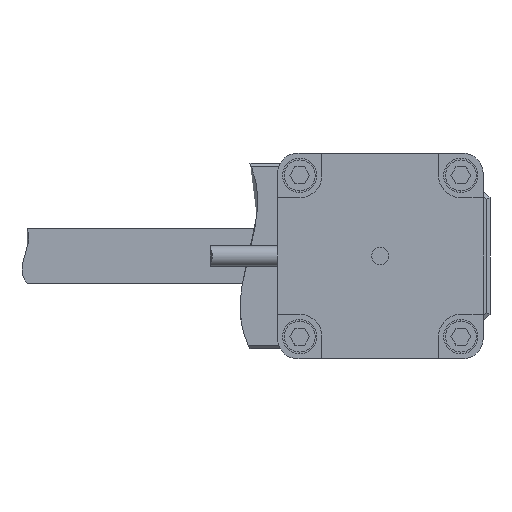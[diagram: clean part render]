
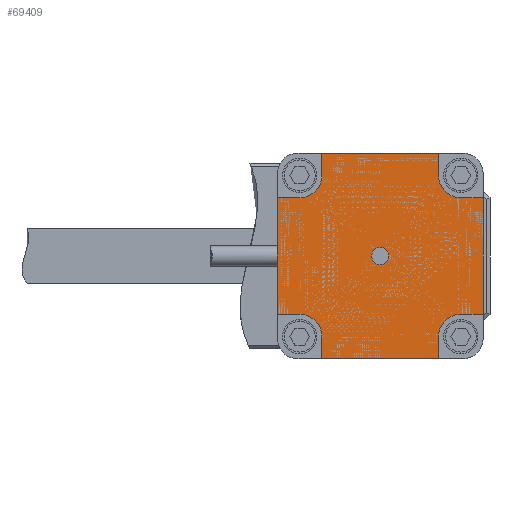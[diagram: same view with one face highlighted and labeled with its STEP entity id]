
A CAD part, front view. The second image highlights one B-rep face of the part: STEP entity #69409.
In plain terms, the highlighted planar face has unit normal (0, -1, 0) as drawn and (0, 1, 0) by its records, which use the part's own axes.
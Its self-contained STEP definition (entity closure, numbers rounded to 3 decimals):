
#68197=DIRECTION('',(1.,0.,0.));
#68198=VECTOR('',#68197,6.5);
#68199=CARTESIAN_POINT('',(-30.,10.,-17.));
#68200=LINE('',#68199,#68198);
#68201=CARTESIAN_POINT('',(-23.5,10.,-23.5));
#68202=DIRECTION('',(0.,1.,0.));
#68203=DIRECTION('',(0.,0.,1.));
#68204=AXIS2_PLACEMENT_3D('',#68201,#68202,#68203);
#68206=DIRECTION('',(0.,0.,1.));
#68207=VECTOR('',#68206,6.5);
#68208=CARTESIAN_POINT('',(-17.,10.,-30.));
#68209=LINE('',#68208,#68207);
#68210=DIRECTION('',(-1.,0.,0.));
#68211=VECTOR('',#68210,34.);
#68212=CARTESIAN_POINT('',(17.,10.,-30.));
#68213=LINE('',#68212,#68211);
#68214=DIRECTION('',(0.,0.,1.));
#68215=VECTOR('',#68214,6.5);
#68216=CARTESIAN_POINT('',(17.,10.,-30.));
#68217=LINE('',#68216,#68215);
#68218=CARTESIAN_POINT('',(23.5,10.,-23.5));
#68219=DIRECTION('',(0.,1.,0.));
#68220=DIRECTION('',(-1.,0.,0.));
#68221=AXIS2_PLACEMENT_3D('',#68218,#68219,#68220);
#68223=DIRECTION('',(-1.,0.,0.));
#68224=VECTOR('',#68223,6.5);
#68225=CARTESIAN_POINT('',(30.,10.,-17.));
#68226=LINE('',#68225,#68224);
#68227=DIRECTION('',(0.,0.,-1.));
#68228=VECTOR('',#68227,34.);
#68229=CARTESIAN_POINT('',(30.,10.,17.));
#68230=LINE('',#68229,#68228);
#68231=DIRECTION('',(-1.,0.,0.));
#68232=VECTOR('',#68231,6.5);
#68233=CARTESIAN_POINT('',(30.,10.,17.));
#68234=LINE('',#68233,#68232);
#68235=CARTESIAN_POINT('',(23.5,10.,23.5));
#68236=DIRECTION('',(0.,1.,0.));
#68237=DIRECTION('',(0.,0.,-1.));
#68238=AXIS2_PLACEMENT_3D('',#68235,#68236,#68237);
#68240=DIRECTION('',(0.,0.,-1.));
#68241=VECTOR('',#68240,6.5);
#68242=CARTESIAN_POINT('',(17.,10.,30.));
#68243=LINE('',#68242,#68241);
#68244=DIRECTION('',(1.,0.,0.));
#68245=VECTOR('',#68244,34.);
#68246=CARTESIAN_POINT('',(-17.,10.,30.));
#68247=LINE('',#68246,#68245);
#68248=DIRECTION('',(0.,0.,-1.));
#68249=VECTOR('',#68248,6.5);
#68250=CARTESIAN_POINT('',(-17.,10.,30.));
#68251=LINE('',#68250,#68249);
#68252=CARTESIAN_POINT('',(-23.5,10.,23.5));
#68253=DIRECTION('',(0.,1.,0.));
#68254=DIRECTION('',(1.,0.,0.));
#68255=AXIS2_PLACEMENT_3D('',#68252,#68253,#68254);
#68257=DIRECTION('',(1.,0.,0.));
#68258=VECTOR('',#68257,6.5);
#68259=CARTESIAN_POINT('',(-30.,10.,17.));
#68260=LINE('',#68259,#68258);
#68261=DIRECTION('',(0.,0.,1.));
#68262=VECTOR('',#68261,34.);
#68263=CARTESIAN_POINT('',(-30.,10.,-17.));
#68264=LINE('',#68263,#68262);
#68265=CARTESIAN_POINT('',(0.,10.,0.));
#68266=DIRECTION('',(0.,1.,0.));
#68267=DIRECTION('',(1.,0.,0.));
#68268=AXIS2_PLACEMENT_3D('',#68265,#68266,#68267);
#68270=CARTESIAN_POINT('',(0.,10.,0.));
#68271=DIRECTION('',(0.,1.,0.));
#68272=DIRECTION('',(-1.,0.,0.));
#68273=AXIS2_PLACEMENT_3D('',#68270,#68271,#68272);
#68879=CARTESIAN_POINT('',(17.,10.,-30.));
#68880=CARTESIAN_POINT('',(17.,10.,-23.5));
#68881=VERTEX_POINT('',#68879);
#68882=VERTEX_POINT('',#68880);
#68883=CARTESIAN_POINT('',(23.5,10.,-17.));
#68884=VERTEX_POINT('',#68883);
#68885=CARTESIAN_POINT('',(30.,10.,-17.));
#68886=VERTEX_POINT('',#68885);
#68899=CARTESIAN_POINT('',(30.,10.,17.));
#68900=CARTESIAN_POINT('',(23.5,10.,17.));
#68901=VERTEX_POINT('',#68899);
#68902=VERTEX_POINT('',#68900);
#68903=CARTESIAN_POINT('',(17.,10.,23.5));
#68904=VERTEX_POINT('',#68903);
#68905=CARTESIAN_POINT('',(17.,10.,30.));
#68906=VERTEX_POINT('',#68905);
#68919=CARTESIAN_POINT('',(-17.,10.,30.));
#68920=CARTESIAN_POINT('',(-17.,10.,23.5));
#68921=VERTEX_POINT('',#68919);
#68922=VERTEX_POINT('',#68920);
#68923=CARTESIAN_POINT('',(-23.5,10.,17.));
#68924=VERTEX_POINT('',#68923);
#68925=CARTESIAN_POINT('',(-30.,10.,17.));
#68926=VERTEX_POINT('',#68925);
#68939=CARTESIAN_POINT('',(-30.,10.,-17.));
#68940=CARTESIAN_POINT('',(-23.5,10.,-17.));
#68941=VERTEX_POINT('',#68939);
#68942=VERTEX_POINT('',#68940);
#68943=CARTESIAN_POINT('',(-17.,10.,-23.5));
#68944=VERTEX_POINT('',#68943);
#68945=CARTESIAN_POINT('',(-17.,10.,-30.));
#68946=VERTEX_POINT('',#68945);
#68977=CARTESIAN_POINT('',(2.5,10.,0.));
#68978=CARTESIAN_POINT('',(-2.5,10.,0.));
#68979=VERTEX_POINT('',#68977);
#68980=VERTEX_POINT('',#68978);
#69369=CARTESIAN_POINT('',(0.,10.,0.));
#69370=DIRECTION('',(0.,1.,0.));
#69371=DIRECTION('',(1.,0.,0.));
#69372=AXIS2_PLACEMENT_3D('',#69369,#69370,#69371);
#69373=PLANE('',#69372);
#69374=ORIENTED_EDGE('',*,*,#69360,.T.);
#69376=ORIENTED_EDGE('',*,*,#69375,.T.);
#69378=ORIENTED_EDGE('',*,*,#69377,.F.);
#69379=ORIENTED_EDGE('',*,*,#69197,.F.);
#69381=ORIENTED_EDGE('',*,*,#69380,.T.);
#69383=ORIENTED_EDGE('',*,*,#69382,.T.);
#69385=ORIENTED_EDGE('',*,*,#69384,.F.);
#69386=ORIENTED_EDGE('',*,*,#69251,.F.);
#69388=ORIENTED_EDGE('',*,*,#69387,.T.);
#69390=ORIENTED_EDGE('',*,*,#69389,.T.);
#69392=ORIENTED_EDGE('',*,*,#69391,.F.);
#69393=ORIENTED_EDGE('',*,*,#69297,.F.);
#69395=ORIENTED_EDGE('',*,*,#69394,.T.);
#69397=ORIENTED_EDGE('',*,*,#69396,.T.);
#69399=ORIENTED_EDGE('',*,*,#69398,.F.);
#69400=ORIENTED_EDGE('',*,*,#69343,.F.);
#69401=EDGE_LOOP('',(#69374,#69376,#69378,#69379,#69381,#69383,#69385,#69386,
#69388,#69390,#69392,#69393,#69395,#69397,#69399,#69400));
#69402=FACE_OUTER_BOUND('',#69401,.F.);
#69404=ORIENTED_EDGE('',*,*,#69403,.T.);
#69406=ORIENTED_EDGE('',*,*,#69405,.T.);
#69407=EDGE_LOOP('',(#69404,#69406));
#69408=FACE_BOUND('',#69407,.F.);
#69409=ADVANCED_FACE('',(#69402,#69408),#69373,.T.);
#68205=CIRCLE('',#68204,6.5);
#68222=CIRCLE('',#68221,6.5);
#68239=CIRCLE('',#68238,6.5);
#68256=CIRCLE('',#68255,6.5);
#68269=CIRCLE('',#68268,2.5);
#68274=CIRCLE('',#68273,2.5);
#69197=EDGE_CURVE('',#68881,#68946,#68213,.T.);
#69251=EDGE_CURVE('',#68901,#68886,#68230,.T.);
#69297=EDGE_CURVE('',#68921,#68906,#68247,.T.);
#69343=EDGE_CURVE('',#68941,#68926,#68264,.T.);
#69360=EDGE_CURVE('',#68941,#68942,#68200,.T.);
#69375=EDGE_CURVE('',#68942,#68944,#68205,.T.);
#69377=EDGE_CURVE('',#68946,#68944,#68209,.T.);
#69380=EDGE_CURVE('',#68881,#68882,#68217,.T.);
#69382=EDGE_CURVE('',#68882,#68884,#68222,.T.);
#69384=EDGE_CURVE('',#68886,#68884,#68226,.T.);
#69387=EDGE_CURVE('',#68901,#68902,#68234,.T.);
#69389=EDGE_CURVE('',#68902,#68904,#68239,.T.);
#69391=EDGE_CURVE('',#68906,#68904,#68243,.T.);
#69394=EDGE_CURVE('',#68921,#68922,#68251,.T.);
#69396=EDGE_CURVE('',#68922,#68924,#68256,.T.);
#69398=EDGE_CURVE('',#68926,#68924,#68260,.T.);
#69403=EDGE_CURVE('',#68979,#68980,#68269,.T.);
#69405=EDGE_CURVE('',#68980,#68979,#68274,.T.);
